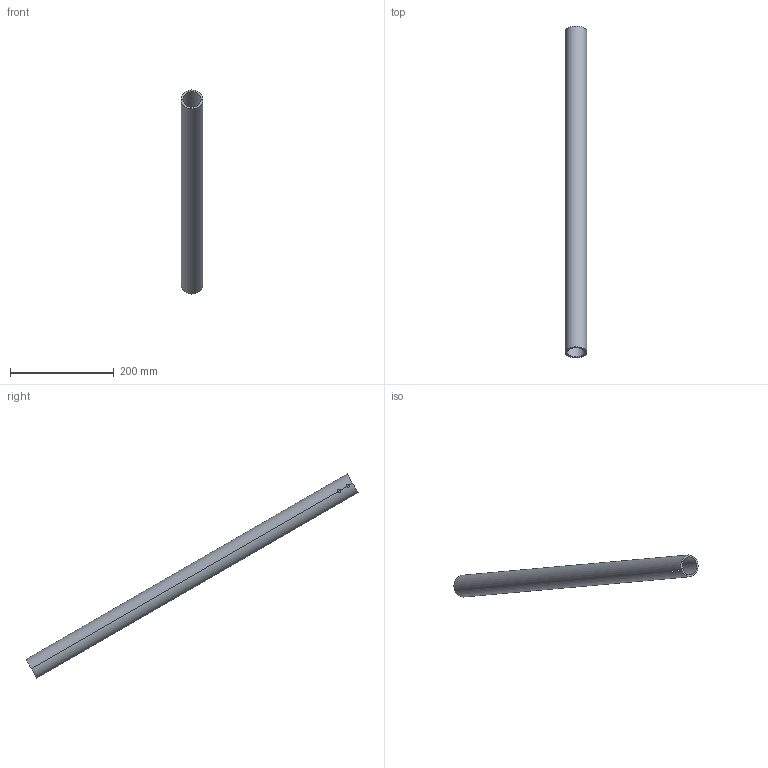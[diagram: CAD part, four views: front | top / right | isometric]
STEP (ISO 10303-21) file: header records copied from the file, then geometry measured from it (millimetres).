
FILE_DESCRIPTION(/* description */ ('VariCAD 2010-3.03 AP-214'),/* implementation_level */ '2;1');
FILE_NAME(/* name */ '0353-22-32',/* time_stamp */ '2011-06-29T10:38:46-06:00',/* author */ (''),/* organization */ (''),/* preprocessor_version */ 'ST-DEVELOPER v12',/* originating_system */ 'VariCAD 2010-3.03; kernel version (20100102)',/* authorisation */ '');
FILE_SCHEMA (('AUTOMOTIVE_DESIGN'));
Length unit declared in the file: millimetre
Products named in the file (1): Part
Bounding box: 42.16 x 641.16 x 394.52 mm (x, y, z)
Volume: 308630.1 mm3; surface area: 174572.9 mm2
Topology: 1 solids, 1 shells, 10 faces, 28 edges, 16 vertices
Faces by surface type: cylinder 8, plane 2
Entity records: 472 total; most frequent: CARTESIAN_POINT 160, ORIENTED_EDGE 56, DIRECTION 52, EDGE_CURVE 28, AXIS2_PLACEMENT_3D 20, VERTEX_POINT 16, EDGE_LOOP 12, LINE 12
